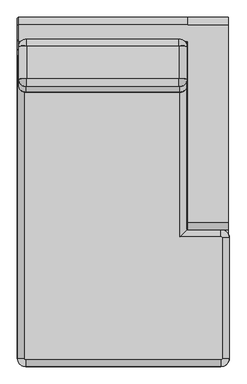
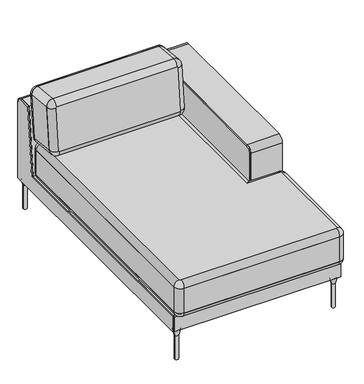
"""IFC4 building model written with IfcOpenShell, lengths in millimetres: furniture geometry, Sofa_Bensen_Neo_NEO15RIT : Sofa_Bensen_Neo_NEO15RIT."""

from ifc_helpers import new_model, si_unit, point, frame, frame_2d, origin, place, context, project, spatial, polyline, circle_curve, ellipse_curve, trimmed, segment, composite_curve, outline, extrude, source, transform, mapped, element, save
from ifc_brep_helpers import plane_surface, cylinder_surface, revolved_surface, advanced_brep


def furniture_083d2603(model_context):
    return source(origin(), model_context, "Body", "SolidModel", [
        advanced_brep(
        [(240.0000001, -479.9987249, 259.4004127), (240.0000001, 275.0012751, 259.4004127), (270.0000001, 275.0012751, 289.4004127), (270.0000001, -449.9987249, 289.4004127), (420.0000001, -994.9987249, 259.4004127), (420.0000001, -484.9987249, 259.4004127), (450.0000001, -484.9987249, 289.4004127), (450.0000001, -994.9987249, 289.4004127), (415.0000001, -479.9987249, 259.4004127), (415.0000001, -449.9987249, 289.4004127), (-419.9999999, 275.0012751, 259.4004127), (-419.9999999, -994.9987249, 259.4004127), (-449.9999999, -994.9987249, 289.4004127), (-449.9999999, 275.0012751, 289.4004127), (235.0000001, 280.0012751, 259.4004127), (235.0000001, 310.0012751, 289.4004127), (-414.9999999, 280.0012751, 259.4004127), (-414.9999999, 310.0012751, 289.4004127), (-414.9999999, -999.9987249, 259.4004127), (-414.9999999, -1029.9987249, 289.4004127), (415.0000001, -999.9987249, 259.4004127), (415.0000001, -1029.9987249, 289.4004127)],
        [
            (0, 1),
            (1, 2, circle_curve(frame((240.0000001, 275.0012751, 289.4004127), z_axis=(0.0, -1.0, 0.0), x_axis=(1.0, 0.0, 0.0)), 30.0)),
            (2, 3),
            (3, 0, ellipse_curve(frame((240.0000001, -479.9987249, 289.4004127), z_axis=(-0.7071067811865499, 0.707106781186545, 0.0), x_axis=(-0.7071067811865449, -0.70710678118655, 0.0)), 42.4264069, 30.0)),
            (4, 5),
            (5, 6, circle_curve(frame((420.0000001, -484.9987249, 289.4004127), z_axis=(0.0, -1.0, 0.0), x_axis=(1.0, 0.0, 0.0)), 30.0)),
            (6, 7),
            (7, 4, circle_curve(frame((420.0000001, -994.9987249, 289.4004127), z_axis=(0.0, 1.0, 0.0), x_axis=(1.0, 0.0, 0.0)), 30.0)),
            (5, 8, circle_curve(frame((415.0000001, -484.9987249, 259.4004127), z_axis=(0.0, 0.0, 1.0), x_axis=(1.0, 0.0, 0.0)), 5.0)),
            (8, 9, circle_curve(frame((415.0000001, -479.9987249, 289.4004127), z_axis=(1.0, 0.0, 0.0), x_axis=(0.0, 1.0, 0.0)), 30.0)),
            (9, 6, circle_curve(frame((415.0000001, -484.9987249, 289.4004127), z_axis=(0.0, 0.0, -1.0), x_axis=(1.0, 0.0, 0.0)), 35.0)),
            (3, 9),
            (8, 0),
            (10, 11),
            (11, 12, circle_curve(frame((-419.9999999, -994.9987249, 289.4004127), z_axis=(0.0, 1.0, 0.0), x_axis=(-1.0, 0.0, 0.0)), 30.0)),
            (12, 13),
            (13, 10, circle_curve(frame((-419.9999999, 275.0012751, 289.4004127), z_axis=(0.0, -1.0, 0.0), x_axis=(-1.0, 0.0, 0.0)), 30.0)),
            (1, 14, circle_curve(frame((235.0000001, 275.0012751, 259.4004127), z_axis=(0.0, 0.0, 1.0), x_axis=(1.0, 0.0, 0.0)), 5.0)),
            (14, 15, circle_curve(frame((235.0000001, 280.0012751, 289.4004127), z_axis=(1.0, 0.0, 0.0), x_axis=(0.0, 1.0, 0.0)), 30.0)),
            (15, 2, circle_curve(frame((235.0000001, 275.0012751, 289.4004127), z_axis=(0.0, 0.0, -1.0), x_axis=(1.0, 0.0, 0.0)), 35.0)),
            (14, 16),
            (16, 17, circle_curve(frame((-414.9999999, 280.0012751, 289.4004127), z_axis=(1.0, 0.0, 0.0), x_axis=(0.0, 1.0, 0.0)), 30.0)),
            (17, 15),
            (13, 17, circle_curve(frame((-414.9999999, 275.0012751, 289.4004127), z_axis=(0.0, 0.0, -1.0), x_axis=(0.0, 1.0, 0.0)), 35.0)),
            (16, 10, circle_curve(frame((-414.9999999, 275.0012751, 259.4004127), z_axis=(0.0, 0.0, 1.0), x_axis=(0.0, 1.0, 0.0)), 5.0)),
            (11, 18, circle_curve(frame((-414.9999999, -994.9987249, 259.4004127), z_axis=(0.0, 0.0, 1.0), x_axis=(-1.0, 0.0, 0.0)), 5.0)),
            (18, 19, circle_curve(frame((-414.9999999, -999.9987249, 289.4004127), z_axis=(-1.0, 0.0, 0.0), x_axis=(0.0, -1.0, 0.0)), 30.0)),
            (19, 12, circle_curve(frame((-414.9999999, -994.9987249, 289.4004127), z_axis=(0.0, 0.0, -1.0), x_axis=(-1.0, 0.0, 0.0)), 35.0)),
            (18, 20),
            (20, 21, circle_curve(frame((415.0000001, -999.9987249, 289.4004127), z_axis=(-1.0, 0.0, 0.0), x_axis=(0.0, -1.0, 0.0)), 30.0)),
            (21, 19),
            (7, 21, circle_curve(frame((415.0000001, -994.9987249, 289.4004127), z_axis=(0.0, 0.0, -1.0), x_axis=(0.0, -1.0, 0.0)), 35.0)),
            (20, 4, circle_curve(frame((415.0000001, -994.9987249, 259.4004127), z_axis=(0.0, 0.0, 1.0), x_axis=(0.0, -1.0, 0.0)), 5.0)),
        ],
        [
            cylinder_surface(frame((240.0000001, -449.9987249, 289.4004127), z_axis=(0.0, -1.0, 0.0), x_axis=(1.0, 0.0, 0.0)), 30.0),
            cylinder_surface(frame((420.0000001, -994.9987249, 289.4004127), z_axis=(0.0, -1.0, 0.0), x_axis=(1.0, 0.0, 0.0)), 30.0),
            revolved_surface(trimmed(ellipse_curve(frame((420.0000001, -484.9987249, 289.4004127), z_axis=(0.0, 1.0, 0.0), x_axis=(1.0, 0.0, 0.0)), 30.0, 30.0), [point((450.0000001, -484.9987249, 289.4004127))], [point((420.0000001, -484.9987249, 259.4004127))], True, "CARTESIAN"), (415.0000001, -484.9987249, 459.4004127), (0.0, 0.0, -1.0)),
            cylinder_surface(frame((415.0000001, -479.9987249, 289.4004127), z_axis=(1.0, 0.0, 0.0), x_axis=(0.0, 1.0, 0.0)), 30.0),
            cylinder_surface(frame((-419.9999999, 275.0012751, 289.4004127), z_axis=(0.0, 1.0, 0.0), x_axis=(-1.0, 0.0, 0.0)), 30.0),
            revolved_surface(trimmed(ellipse_curve(frame((240.0000001, 275.0012751, 289.4004127), z_axis=(0.0, 1.0, 0.0), x_axis=(1.0, 0.0, 0.0)), 30.0, 30.0), [point((270.0000001, 275.0012751, 289.4004127))], [point((240.0000001, 275.0012751, 259.4004127))], True, "CARTESIAN"), (235.0000001, 275.0012751, 459.4004127), (0.0, 0.0, -1.0)),
            cylinder_surface(frame((235.0000001, 280.0012751, 289.4004127), z_axis=(1.0, 0.0, 0.0), x_axis=(0.0, 1.0, 0.0)), 30.0),
            revolved_surface(trimmed(ellipse_curve(frame((-414.9999999, 280.0012751, 289.4004127), z_axis=(-1.0, 0.0, 0.0), x_axis=(0.0, 1.0, 0.0)), 30.0, 30.0), [point((-414.9999999, 310.0012751, 289.4004127))], [point((-414.9999999, 280.0012751, 259.4004127))], True, "CARTESIAN"), (-414.9999999, 275.0012751, 459.4004127), (0.0, 0.0, -1.0)),
            revolved_surface(trimmed(ellipse_curve(frame((-419.9999999, -994.9987249, 289.4004127), z_axis=(0.0, -1.0, 0.0), x_axis=(-1.0, 0.0, 0.0)), 30.0, 30.0), [point((-449.9999999, -994.9987249, 289.4004127))], [point((-419.9999999, -994.9987249, 259.4004127))], True, "CARTESIAN"), (-414.9999999, -994.9987249, 459.4004127), (0.0, 0.0, -1.0)),
            cylinder_surface(frame((-414.9999999, -999.9987249, 289.4004127), z_axis=(-1.0, 0.0, 0.0), x_axis=(0.0, -1.0, 0.0)), 30.0),
            revolved_surface(trimmed(ellipse_curve(frame((415.0000001, -999.9987249, 289.4004127), z_axis=(1.0, 0.0, 0.0), x_axis=(0.0, -1.0, 0.0)), 30.0, 30.0), [point((415.0000001, -1029.9987249, 289.4004127))], [point((415.0000001, -999.9987249, 259.4004127))], True, "CARTESIAN"), (415.0000001, -994.9987249, 459.4004127), (0.0, 0.0, -1.0)),
            plane_surface(frame((415.0000001, -994.9987249, 289.4004127), z_axis=(0.0, 0.0, 1.0), x_axis=(0.0, -1.0, 0.0))),
            plane_surface(frame((235.0000001, 270.0012751, 259.4004127), z_axis=(0.0, 0.0, -1.0), x_axis=(1.0, 0.0, 0.0))),
        ],
        [
            (0, [[1, 2, 3, 4]]),
            (1, [[5, 6, 7, 8]]),
            (2, [[9, 10, 11, -6]]),
            (3, [[12, -10, 13, -4]]),
            (4, [[14, 15, 16, 17]]),
            (5, [[18, 19, 20, -2]]),
            (6, [[21, 22, 23, -19]]),
            (7, [[24, -22, 25, -17]]),
            (8, [[26, 27, 28, -15]]),
            (9, [[29, 30, 31, -27]]),
            (10, [[32, -30, 33, -8]]),
            (11, [[-20, -23, -24, -16, -28, -31, -32, -7, -11, -12, -3]]),
            (12, [[-13, -9, -5, -33, -29, -26, -14, -25, -21, -18, -1]]),
        ],
    ),
        advanced_brep(
        [(270.0000001, -449.9987249, 429.4004127), (270.0000001, 275.0012751, 429.4004127), (240.0000001, 275.0012751, 459.4004127), (240.0000001, -479.9987249, 459.4004127), (235.0000001, 280.0012751, 459.4004127), (-414.9999999, 280.0012751, 459.4004127), (-419.9999999, 275.0012751, 459.4004127), (-419.9999999, -994.9987249, 459.4004127), (-414.9999999, -999.9987249, 459.4004127), (415.0000001, -999.9987249, 459.4004127), (420.0000001, -994.9987249, 459.4004127), (420.0000001, -484.9987249, 459.4004127), (415.0000001, -479.9987249, 459.4004127), (450.0000001, -994.9987249, 429.4004127), (450.0000001, -484.9987249, 429.4004127), (415.0000001, -449.9987249, 429.4004127), (-449.9999999, 275.0012751, 429.4004127), (-449.9999999, -994.9987249, 429.4004127), (235.0000001, 310.0012751, 429.4004127), (-414.9999999, 310.0012751, 429.4004127), (-414.9999999, -1029.9987249, 429.4004127), (415.0000001, -1029.9987249, 429.4004127)],
        [
            (0, 1),
            (1, 2, circle_curve(frame((240.0000001, 275.0012751, 429.4004127), z_axis=(0.0, -1.0, 0.0), x_axis=(1.0, 0.0, 0.0)), 30.0)),
            (2, 3),
            (3, 0, ellipse_curve(frame((240.0000001, -479.9987249, 429.4004127), z_axis=(-0.7071067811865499, 0.707106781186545, 0.0), x_axis=(-0.7071067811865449, -0.70710678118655, 0.0)), 42.4264069, 30.0)),
            (2, 4, circle_curve(frame((235.0000001, 275.0012751, 459.4004127), z_axis=(0.0, 0.0, 1.0), x_axis=(1.0, 0.0, 0.0)), 5.0)),
            (4, 5),
            (5, 6, circle_curve(frame((-414.9999999, 275.0012751, 459.4004127), z_axis=(0.0, 0.0, 1.0), x_axis=(0.0, 1.0, 0.0)), 5.0)),
            (6, 7),
            (7, 8, circle_curve(frame((-414.9999999, -994.9987249, 459.4004127), z_axis=(0.0, 0.0, 1.0), x_axis=(-1.0, 0.0, 0.0)), 5.0)),
            (8, 9),
            (9, 10, circle_curve(frame((415.0000001, -994.9987249, 459.4004127), z_axis=(0.0, 0.0, 1.0), x_axis=(0.0, -1.0, 0.0)), 5.0)),
            (10, 11),
            (11, 12, circle_curve(frame((415.0000001, -484.9987249, 459.4004127), z_axis=(0.0, 0.0, 1.0), x_axis=(1.0, 0.0, 0.0)), 5.0)),
            (12, 3),
            (13, 14),
            (14, 11, circle_curve(frame((420.0000001, -484.9987249, 429.4004127), z_axis=(0.0, -1.0, 0.0), x_axis=(1.0, 0.0, 0.0)), 30.0)),
            (10, 13, circle_curve(frame((420.0000001, -994.9987249, 429.4004127), z_axis=(0.0, 1.0, 0.0), x_axis=(1.0, 0.0, 0.0)), 30.0)),
            (14, 15, circle_curve(frame((415.0000001, -484.9987249, 429.4004127), z_axis=(0.0, 0.0, 1.0), x_axis=(1.0, 0.0, 0.0)), 35.0)),
            (15, 12, circle_curve(frame((415.0000001, -479.9987249, 429.4004127), z_axis=(1.0, 0.0, 0.0), x_axis=(0.0, 1.0, 0.0)), 30.0)),
            (15, 0),
            (16, 17),
            (17, 7, circle_curve(frame((-419.9999999, -994.9987249, 429.4004127), z_axis=(0.0, 1.0, 0.0), x_axis=(-1.0, 0.0, 0.0)), 30.0)),
            (6, 16, circle_curve(frame((-419.9999999, 275.0012751, 429.4004127), z_axis=(0.0, -1.0, 0.0), x_axis=(-1.0, 0.0, 0.0)), 30.0)),
            (1, 18, circle_curve(frame((235.0000001, 275.0012751, 429.4004127), z_axis=(0.0, 0.0, 1.0), x_axis=(1.0, 0.0, 0.0)), 35.0)),
            (18, 4, circle_curve(frame((235.0000001, 280.0012751, 429.4004127), z_axis=(1.0, 0.0, 0.0), x_axis=(0.0, 1.0, 0.0)), 30.0)),
            (18, 19),
            (19, 5, circle_curve(frame((-414.9999999, 280.0012751, 429.4004127), z_axis=(1.0, 0.0, 0.0), x_axis=(0.0, 1.0, 0.0)), 30.0)),
            (19, 16, circle_curve(frame((-414.9999999, 275.0012751, 429.4004127), z_axis=(0.0, 0.0, 1.0), x_axis=(0.0, 1.0, 0.0)), 35.0)),
            (17, 20, circle_curve(frame((-414.9999999, -994.9987249, 429.4004127), z_axis=(0.0, 0.0, 1.0), x_axis=(-1.0, 0.0, 0.0)), 35.0)),
            (20, 8, circle_curve(frame((-414.9999999, -999.9987249, 429.4004127), z_axis=(-1.0, 0.0, 0.0), x_axis=(0.0, -1.0, 0.0)), 30.0)),
            (20, 21),
            (21, 9, circle_curve(frame((415.0000001, -999.9987249, 429.4004127), z_axis=(-1.0, 0.0, 0.0), x_axis=(0.0, -1.0, 0.0)), 30.0)),
            (21, 13, circle_curve(frame((415.0000001, -994.9987249, 429.4004127), z_axis=(0.0, 0.0, 1.0), x_axis=(0.0, -1.0, 0.0)), 35.0)),
        ],
        [
            cylinder_surface(frame((240.0000001, -449.9987249, 429.4004127), z_axis=(0.0, -1.0, 0.0), x_axis=(1.0, 0.0, 0.0)), 30.0),
            plane_surface(frame((230.0000001, 275.0012751, 459.4004127), z_axis=(0.0, 0.0, 1.0), x_axis=(0.0, 1.0, 0.0))),
            cylinder_surface(frame((420.0000001, -994.9987249, 429.4004127), z_axis=(0.0, -1.0, 0.0), x_axis=(1.0, 0.0, 0.0)), 30.0),
            revolved_surface(trimmed(ellipse_curve(frame((420.0000001, -484.9987249, 429.4004127), z_axis=(0.0, 1.0, 0.0), x_axis=(1.0, 0.0, 0.0)), 30.0, 30.0), [point((420.0000001, -484.9987249, 459.4004127))], [point((450.0000001, -484.9987249, 429.4004127))], True, "CARTESIAN"), (415.0000001, -484.9987249, 259.4004127), (0.0, 0.0, -1.0)),
            cylinder_surface(frame((415.0000001, -479.9987249, 429.4004127), z_axis=(1.0, 0.0, 0.0), x_axis=(0.0, 1.0, 0.0)), 30.0),
            cylinder_surface(frame((-419.9999999, 275.0012751, 429.4004127), z_axis=(0.0, 1.0, 0.0), x_axis=(-1.0, 0.0, 0.0)), 30.0),
            revolved_surface(trimmed(ellipse_curve(frame((240.0000001, 275.0012751, 429.4004127), z_axis=(0.0, 1.0, 0.0), x_axis=(1.0, 0.0, 0.0)), 30.0, 30.0), [point((240.0000001, 275.0012751, 459.4004127))], [point((270.0000001, 275.0012751, 429.4004127))], True, "CARTESIAN"), (235.0000001, 275.0012751, 259.4004127), (0.0, 0.0, -1.0)),
            cylinder_surface(frame((235.0000001, 280.0012751, 429.4004127), z_axis=(1.0, 0.0, 0.0), x_axis=(0.0, 1.0, 0.0)), 30.0),
            revolved_surface(trimmed(ellipse_curve(frame((-414.9999999, 280.0012751, 429.4004127), z_axis=(-1.0, 0.0, 0.0), x_axis=(0.0, 1.0, 0.0)), 30.0, 30.0), [point((-414.9999999, 280.0012751, 459.4004127))], [point((-414.9999999, 310.0012751, 429.4004127))], True, "CARTESIAN"), (-414.9999999, 275.0012751, 259.4004127), (0.0, 0.0, -1.0)),
            revolved_surface(trimmed(ellipse_curve(frame((-419.9999999, -994.9987249, 429.4004127), z_axis=(0.0, -1.0, 0.0), x_axis=(-1.0, 0.0, 0.0)), 30.0, 30.0), [point((-419.9999999, -994.9987249, 459.4004127))], [point((-449.9999999, -994.9987249, 429.4004127))], True, "CARTESIAN"), (-414.9999999, -994.9987249, 259.4004127), (0.0, 0.0, -1.0)),
            cylinder_surface(frame((-414.9999999, -999.9987249, 429.4004127), z_axis=(-1.0, 0.0, 0.0), x_axis=(0.0, -1.0, 0.0)), 30.0),
            revolved_surface(trimmed(ellipse_curve(frame((415.0000001, -999.9987249, 429.4004127), z_axis=(1.0, 0.0, 0.0), x_axis=(0.0, -1.0, 0.0)), 30.0, 30.0), [point((415.0000001, -999.9987249, 459.4004127))], [point((415.0000001, -1029.9987249, 429.4004127))], True, "CARTESIAN"), (415.0000001, -994.9987249, 259.4004127), (0.0, 0.0, -1.0)),
            plane_surface(frame((415.0000001, -994.9987249, 429.4004127), z_axis=(0.0, 0.0, -1.0), x_axis=(0.0, -1.0, 0.0))),
        ],
        [
            (0, [[1, 2, 3, 4]]),
            (1, [[5, 6, 7, 8, 9, 10, 11, 12, 13, 14, -3]]),
            (2, [[15, 16, -12, 17]]),
            (3, [[18, 19, -13, -16]]),
            (4, [[-14, -19, 20, -4]]),
            (5, [[21, 22, -8, 23]]),
            (6, [[24, 25, -5, -2]]),
            (7, [[26, 27, -6, -25]]),
            (8, [[-7, -27, 28, -23]]),
            (9, [[29, 30, -9, -22]]),
            (10, [[31, 32, -10, -30]]),
            (11, [[-11, -32, 33, -17]]),
            (12, [[-20, -18, -15, -33, -31, -29, -21, -28, -26, -24, -1]]),
        ],
    ),
        extrude(outline(composite_curve([segment(trimmed(circle_curve(frame_2d((235.0000001, 275.0012751)), 35.0), [point((235.0000001, 310.0012751))], [point((270.0000001, 275.0012751))], False, "CARTESIAN"), True, "CONTINUOUS"), segment(polyline([(270.0000001, 275.0012751), (270.0000001, -449.9987249), (415.0000001, -449.9987249)]), True, "CONTINUOUS"), segment(trimmed(circle_curve(frame_2d((415.0000001, -484.9987249)), 35.0), [point((415.0000001, -449.9987249))], [point((450.0000001, -484.9987249))], False, "CARTESIAN"), True, "CONTINUOUS"), segment(polyline([(450.0000001, -484.9987249), (450.0000001, -994.9987249)]), True, "CONTINUOUS"), segment(trimmed(circle_curve(frame_2d((415.0000001, -994.9987249)), 35.0), [point((450.0000001, -994.9987249))], [point((415.0000001, -1029.9987249))], False, "CARTESIAN"), True, "CONTINUOUS"), segment(polyline([(415.0000001, -1029.9987249), (-414.9999999, -1029.9987249)]), True, "CONTINUOUS"), segment(trimmed(circle_curve(frame_2d((-414.9999999, -994.9987249)), 35.0), [point((-414.9999999, -1029.9987249))], [point((-449.9999999, -994.9987249))], False, "CARTESIAN"), True, "CONTINUOUS"), segment(polyline([(-449.9999999, -994.9987249), (-449.9999999, 275.0012751)]), True, "CONTINUOUS"), segment(trimmed(circle_curve(frame_2d((-414.9999999, 275.0012751)), 35.0), [point((-449.9999999, 275.0012751))], [point((-414.9999999, 310.0012751))], False, "CARTESIAN"), True, "CONTINUOUS"), segment(polyline([(-414.9999999, 310.0012751), (235.0000001, 310.0012751)]), True, "CONTINUOUS")], self_intersect=False)), frame((0.0, 0.0, 289.4004127), z_axis=(0.0, 0.0, 1.0), x_axis=(1.0, 0.0, 0.0)), (0.0, 0.0, 1.0), 140.0),
        advanced_brep(
        [(-421.0275996, -970.0263245, 0.0), (-430.8719303, -970.0263245, 0.0), (-411.1832689, -970.0263245, 0.0), (-401.0551992, -970.0263245, 170.0), (-441.0, -970.0263245, 170.0), (-421.0275996, -970.0263245, 170.0), (-411.1832689, -970.0263245, 133.7982678), (-430.8719303, -970.0263245, 133.7982678)],
        [
            (0, 1),
            (1, 2, circle_curve(frame((-421.0275996, -970.0263245, 0.0), z_axis=(0.0, 0.0, -1.0), x_axis=(-1.0, 0.0, 0.0)), 9.8443307)),
            (2, 0),
            (2, 1, circle_curve(frame((-421.0275996, -970.0263245, 0.0), z_axis=(0.0, 0.0, -1.0), x_axis=(-1.0, 0.0, 0.0)), 9.8443307)),
            (3, 4, circle_curve(frame((-421.0275996, -970.0263245, 170.0), z_axis=(0.0, 0.0, 1.0), x_axis=(-1.0, 0.0, 0.0)), 19.9724004)),
            (4, 5),
            (5, 3),
            (4, 3, circle_curve(frame((-421.0275996, -970.0263245, 170.0), z_axis=(0.0, 0.0, 1.0), x_axis=(-1.0, 0.0, 0.0)), 19.9724004)),
            (6, 7, circle_curve(frame((-421.0275996, -970.0263245, 133.7982678), z_axis=(0.0, 0.0, 1.0), x_axis=(-1.0, 0.0, 0.0)), 9.8443307)),
            (7, 4),
            (3, 6),
            (7, 6, circle_curve(frame((-421.0275996, -970.0263245, 133.7982678), z_axis=(0.0, 0.0, 1.0), x_axis=(-1.0, 0.0, 0.0)), 9.8443307)),
            (1, 7),
            (6, 2),
        ],
        [
            plane_surface(frame((-421.0275996, -970.0263245, 0.0), z_axis=(0.0, 0.0, -1.0), x_axis=(-1.0, 0.0, 0.0))),
            plane_surface(frame((-421.0275996, -970.0263245, 170.0), z_axis=(0.0, 0.0, 1.0), x_axis=(-1.0, 0.0, 0.0))),
            revolved_surface(polyline([(-441.0, -970.0263245, 170.0), (-430.8719303, -970.0263245, 133.7982678)]), (-421.0275996, -970.0263245, 210.0), (0.0, 0.0, -1.0)),
            cylinder_surface(frame((-421.0275996, -970.0263245, 210.0), z_axis=(0.0, 0.0, -1.0), x_axis=(-1.0, 0.0, 0.0)), 9.8443307),
        ],
        [
            (0, [[1, 2, 3]]),
            (0, [[-3, 4, -1]]),
            (1, [[5, 6, 7]]),
            (1, [[8, -7, -6]]),
            (2, [[9, 10, -5, 11]]),
            (2, [[12, -11, -8, -10]]),
            (3, [[-2, 13, -9, 14]]),
            (3, [[-4, -14, -12, -13]]),
        ],
    ),
        advanced_brep(
        [(416.0275996, -970.0263245, 0.0), (406.1832689, -970.0263245, 0.0), (425.8719303, -970.0263245, 0.0), (396.0551992, -970.0263245, 170.0), (416.0275996, -970.0263245, 170.0), (436.0, -970.0263245, 170.0), (406.1832689, -970.0263245, 133.7982678), (425.8719303, -970.0263245, 133.7982678)],
        [
            (0, 1),
            (1, 2, circle_curve(frame((416.0275996, -970.0263245, 0.0), z_axis=(0.0, 0.0, -1.0), x_axis=(1.0, 0.0, 0.0)), 9.8443307)),
            (2, 0),
            (2, 1, circle_curve(frame((416.0275996, -970.0263245, 0.0), z_axis=(0.0, 0.0, -1.0), x_axis=(1.0, 0.0, 0.0)), 9.8443307)),
            (3, 4),
            (4, 5),
            (5, 3, circle_curve(frame((416.0275996, -970.0263245, 170.0), z_axis=(0.0, 0.0, 1.0), x_axis=(1.0, 0.0, 0.0)), 19.9724004)),
            (3, 5, circle_curve(frame((416.0275996, -970.0263245, 170.0), z_axis=(0.0, 0.0, 1.0), x_axis=(1.0, 0.0, 0.0)), 19.9724004)),
            (6, 3),
            (5, 7),
            (7, 6, circle_curve(frame((416.0275996, -970.0263245, 133.7982678), z_axis=(0.0, 0.0, 1.0), x_axis=(1.0, 0.0, 0.0)), 9.8443307)),
            (6, 7, circle_curve(frame((416.0275996, -970.0263245, 133.7982678), z_axis=(0.0, 0.0, 1.0), x_axis=(1.0, 0.0, 0.0)), 9.8443307)),
            (1, 6),
            (7, 2),
        ],
        [
            plane_surface(frame((416.0275996, -970.0263245, 0.0), z_axis=(0.0, 0.0, -1.0), x_axis=(1.0, 0.0, 0.0))),
            plane_surface(frame((416.0275996, -970.0263245, 170.0), z_axis=(0.0, 0.0, 1.0), x_axis=(1.0, 0.0, 0.0))),
            revolved_surface(polyline([(436.0, -970.0263245, 170.0), (425.8719303, -970.0263245, 133.7982678)]), (416.0275996, -970.0263245, 210.0), (0.0, 0.0, -1.0)),
            cylinder_surface(frame((416.0275996, -970.0263245, 210.0), z_axis=(0.0, 0.0, -1.0), x_axis=(1.0, 0.0, 0.0)), 9.8443307),
        ],
        [
            (0, [[1, 2, 3]]),
            (0, [[-3, 4, -1]]),
            (1, [[5, 6, 7]]),
            (1, [[-6, -5, 8]]),
            (2, [[9, -7, 10, 11]]),
            (2, [[-10, -8, -9, 12]]),
            (3, [[13, -11, 14, -2]]),
            (3, [[-14, -12, -13, -4]]),
        ],
    ),
        advanced_brep(
        [(-421.0275996, 430.0263245, 0.0), (-411.1832689, 430.0263245, 0.0), (-430.8719303, 430.0263245, 0.0), (-401.0551992, 430.0263245, 170.0), (-421.0275996, 430.0263245, 170.0), (-441.0, 430.0263245, 170.0), (-411.1832689, 430.0263245, 133.7982678), (-430.8719303, 430.0263245, 133.7982678)],
        [
            (0, 1),
            (1, 2, circle_curve(frame((-421.0275996, 430.0263245, 0.0), z_axis=(0.0, 0.0, -1.0), x_axis=(-1.0, 0.0, 0.0)), 9.8443307)),
            (2, 0),
            (2, 1, circle_curve(frame((-421.0275996, 430.0263245, 0.0), z_axis=(0.0, 0.0, -1.0), x_axis=(-1.0, 0.0, 0.0)), 9.8443307)),
            (3, 4),
            (4, 5),
            (5, 3, circle_curve(frame((-421.0275996, 430.0263245, 170.0), z_axis=(0.0, 0.0, 1.0), x_axis=(-1.0, 0.0, 0.0)), 19.9724004)),
            (3, 5, circle_curve(frame((-421.0275996, 430.0263245, 170.0), z_axis=(0.0, 0.0, 1.0), x_axis=(-1.0, 0.0, 0.0)), 19.9724004)),
            (6, 3),
            (5, 7),
            (7, 6, circle_curve(frame((-421.0275996, 430.0263245, 133.7982678), z_axis=(0.0, 0.0, 1.0), x_axis=(-1.0, 0.0, 0.0)), 9.8443307)),
            (6, 7, circle_curve(frame((-421.0275996, 430.0263245, 133.7982678), z_axis=(0.0, 0.0, 1.0), x_axis=(-1.0, 0.0, 0.0)), 9.8443307)),
            (1, 6),
            (7, 2),
        ],
        [
            plane_surface(frame((-421.0275996, 430.0263245, 0.0), z_axis=(0.0, 0.0, -1.0), x_axis=(-1.0, 0.0, 0.0))),
            plane_surface(frame((-421.0275996, 430.0263245, 170.0), z_axis=(0.0, 0.0, 1.0), x_axis=(-1.0, 0.0, 0.0))),
            revolved_surface(polyline([(-441.0, 430.0263245, 170.0), (-430.8719303, 430.0263245, 133.7982678)]), (-421.0275996, 430.0263245, 210.0), (0.0, 0.0, -1.0)),
            cylinder_surface(frame((-421.0275996, 430.0263245, 210.0), z_axis=(0.0, 0.0, -1.0), x_axis=(-1.0, 0.0, 0.0)), 9.8443307),
        ],
        [
            (0, [[1, 2, 3]]),
            (0, [[-3, 4, -1]]),
            (1, [[5, 6, 7]]),
            (1, [[-6, -5, 8]]),
            (2, [[9, -7, 10, 11]]),
            (2, [[-10, -8, -9, 12]]),
            (3, [[13, -11, 14, -2]]),
            (3, [[-14, -12, -13, -4]]),
        ],
    ),
        advanced_brep(
        [(416.0275996, 430.0263245, 0.0), (425.8719303, 430.0263245, 0.0), (406.1832689, 430.0263245, 0.0), (396.0551992, 430.0263245, 170.0), (436.0, 430.0263245, 170.0), (416.0275996, 430.0263245, 170.0), (406.1832689, 430.0263245, 133.7982678), (425.8719303, 430.0263245, 133.7982678)],
        [
            (0, 1),
            (1, 2, circle_curve(frame((416.0275996, 430.0263245, 0.0), z_axis=(0.0, 0.0, -1.0), x_axis=(1.0, 0.0, 0.0)), 9.8443307)),
            (2, 0),
            (2, 1, circle_curve(frame((416.0275996, 430.0263245, 0.0), z_axis=(0.0, 0.0, -1.0), x_axis=(1.0, 0.0, 0.0)), 9.8443307)),
            (3, 4, circle_curve(frame((416.0275996, 430.0263245, 170.0), z_axis=(0.0, 0.0, 1.0), x_axis=(1.0, 0.0, 0.0)), 19.9724004)),
            (4, 5),
            (5, 3),
            (4, 3, circle_curve(frame((416.0275996, 430.0263245, 170.0), z_axis=(0.0, 0.0, 1.0), x_axis=(1.0, 0.0, 0.0)), 19.9724004)),
            (6, 7, circle_curve(frame((416.0275996, 430.0263245, 133.7982678), z_axis=(0.0, 0.0, 1.0), x_axis=(1.0, 0.0, 0.0)), 9.8443307)),
            (7, 4),
            (3, 6),
            (7, 6, circle_curve(frame((416.0275996, 430.0263245, 133.7982678), z_axis=(0.0, 0.0, 1.0), x_axis=(1.0, 0.0, 0.0)), 9.8443307)),
            (1, 7),
            (6, 2),
        ],
        [
            plane_surface(frame((416.0275996, 430.0263245, 0.0), z_axis=(0.0, 0.0, -1.0), x_axis=(1.0, 0.0, 0.0))),
            plane_surface(frame((416.0275996, 430.0263245, 170.0), z_axis=(0.0, 0.0, 1.0), x_axis=(1.0, 0.0, 0.0))),
            revolved_surface(polyline([(436.0, 430.0263245, 170.0), (425.8719303, 430.0263245, 133.7982678)]), (416.0275996, 430.0263245, 210.0), (0.0, 0.0, -1.0)),
            cylinder_surface(frame((416.0275996, 430.0263245, 210.0), z_axis=(0.0, 0.0, -1.0), x_axis=(1.0, 0.0, 0.0)), 9.8443307),
        ],
        [
            (0, [[1, 2, 3]]),
            (0, [[-3, 4, -1]]),
            (1, [[5, 6, 7]]),
            (1, [[8, -7, -6]]),
            (2, [[9, 10, -5, 11]]),
            (2, [[12, -11, -8, -10]]),
            (3, [[-2, 13, -9, 14]]),
            (3, [[-4, -14, -12, -13]]),
        ],
    ),
        advanced_brep(
        [(235.0000001, 330.2036921, 743.2087665), (-409.9999999, 330.2036921, 743.2087665), (-444.9999999, 326.5451959, 708.4005002), (-444.9999999, 302.5036494, 479.6604642), (-409.9999999, 298.8451531, 444.8521979), (235.0000001, 298.8451531, 444.8521979), (270.0000001, 302.5036494, 479.6604642), (270.0000001, 326.5451959, 708.4005002), (240.0000001, 356.3808528, 705.2646463), (240.0000001, 332.3393062, 476.5246103), (235.0000001, 331.8166639, 471.5520008), (-409.9999999, 331.8166639, 471.5520008), (-414.9999999, 332.3393062, 476.5246103), (-414.9999999, 356.3808528, 705.2646463), (-409.9999999, 356.9034951, 710.2372557), (235.0000001, 356.9034951, 710.2372557)],
        [
            (0, 1),
            (1, 2, circle_curve(frame((-409.9999999, 326.5451959, 708.4005002), z_axis=(0.0, -0.9945218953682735, 0.10452846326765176), x_axis=(0.0, 0.10452846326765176, 0.9945218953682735)), 35.0)),
            (2, 3),
            (3, 4, circle_curve(frame((-409.9999999, 302.5036494, 479.6604642), z_axis=(0.0, -0.9945218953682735, 0.10452846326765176), x_axis=(-1.0, 0.0, 0.0)), 35.0)),
            (4, 5),
            (5, 6, circle_curve(frame((235.0000001, 302.5036494, 479.6604642), z_axis=(0.0, -0.9945218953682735, 0.10452846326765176), x_axis=(0.0, -0.10452846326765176, -0.9945218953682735)), 35.0)),
            (6, 7),
            (7, 0, circle_curve(frame((235.0000001, 326.5451959, 708.4005002), z_axis=(0.0, -0.9945218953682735, 0.10452846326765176), x_axis=(1.0, 0.0, 0.0)), 35.0)),
            (8, 9),
            (9, 10, circle_curve(frame((235.0000001, 332.3393062, 476.5246103), z_axis=(0.0, 0.9945218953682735, -0.10452846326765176), x_axis=(0.0, -0.10452846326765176, -0.9945218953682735)), 5.0)),
            (10, 11),
            (11, 12, circle_curve(frame((-409.9999999, 332.3393062, 476.5246103), z_axis=(0.0, 0.9945218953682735, -0.10452846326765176), x_axis=(-1.0, 0.0, 0.0)), 5.0)),
            (12, 13),
            (13, 14, circle_curve(frame((-409.9999999, 356.3808528, 705.2646463), z_axis=(0.0, 0.9945218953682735, -0.10452846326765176), x_axis=(0.0, 0.10452846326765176, 0.9945218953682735)), 5.0)),
            (14, 15),
            (15, 8, circle_curve(frame((235.0000001, 356.3808528, 705.2646463), z_axis=(0.0, 0.9945218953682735, -0.10452846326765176), x_axis=(1.0, 0.0, 0.0)), 5.0)),
            (15, 0, circle_curve(frame((235.0000001, 327.0678382, 713.3731096), z_axis=(1.0, 0.0, 0.0), x_axis=(0.0, 0.10452846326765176, 0.9945218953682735)), 30.0)),
            (7, 8, circle_curve(frame((240.0000001, 326.5451959, 708.4005002), z_axis=(0.0, 0.10452846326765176, 0.9945218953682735), x_axis=(1.0, 0.0, 0.0)), 30.0)),
            (14, 1, circle_curve(frame((-409.9999999, 327.0678382, 713.3731096), z_axis=(1.0, 0.0, 0.0), x_axis=(0.0, 0.10452846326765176, 0.9945218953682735)), 30.0)),
            (13, 2, circle_curve(frame((-414.9999999, 326.5451959, 708.4005002), z_axis=(0.0, 0.10452846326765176, 0.9945218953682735), x_axis=(-1.0, 0.0, 0.0)), 30.0)),
            (12, 3, circle_curve(frame((-414.9999999, 302.5036494, 479.6604642), z_axis=(0.0, 0.10452846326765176, 0.9945218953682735), x_axis=(-1.0, 0.0, 0.0)), 30.0)),
            (11, 4, circle_curve(frame((-409.9999999, 301.981007, 474.6878547), z_axis=(-1.0, 0.0, 0.0), x_axis=(0.0, -0.10452846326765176, -0.9945218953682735)), 30.0)),
            (10, 5, circle_curve(frame((235.0000001, 301.981007, 474.6878547), z_axis=(-1.0, 0.0, 0.0), x_axis=(0.0, -0.10452846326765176, -0.9945218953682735)), 30.0)),
            (9, 6, circle_curve(frame((240.0000001, 302.5036494, 479.6604642), z_axis=(0.0, -0.10452846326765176, -0.9945218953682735), x_axis=(1.0, 0.0, 0.0)), 30.0)),
        ],
        [
            plane_surface(frame((235.0000001, 303.0262917, 484.6330737), z_axis=(0.0, -0.9945218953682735, 0.10452846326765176), x_axis=(1.0, 0.0, 0.0))),
            plane_surface(frame((235.0000001, 332.8619485, 481.4972198), z_axis=(0.0, 0.9945218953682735, -0.10452846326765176), x_axis=(-1.0, 0.0, 0.0))),
            revolved_surface(trimmed(ellipse_curve(frame((240.0000001, 326.5451959, 708.4005002), z_axis=(0.0, 0.10452846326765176, 0.9945218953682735), x_axis=(1.0, 0.0, 0.0)), 30.0, 30.0), [point((270.0000001, 326.5451959, 708.4005002))], [point((240.0000001, 356.3808528, 705.2646463))], True, "CARTESIAN"), (235.0000001, 326.5451959, 708.4005002), (0.0, 0.9945218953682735, -0.10452846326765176)),
            cylinder_surface(frame((235.0000001, 327.0678382, 713.3731096), z_axis=(1.0, 0.0, 0.0), x_axis=(0.0, 0.10452846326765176, 0.9945218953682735)), 30.0),
            revolved_surface(trimmed(ellipse_curve(frame((-409.9999999, 327.0678382, 713.3731096), z_axis=(-1.0, 0.0, 0.0), x_axis=(0.0, 0.10452846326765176, 0.9945218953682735)), 30.0, 30.0), [point((-409.9999999, 330.2036921, 743.2087665))], [point((-409.9999999, 356.9034951, 710.2372557))], True, "CARTESIAN"), (-409.9999999, 326.5451959, 708.4005002), (0.0, 0.9945218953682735, -0.10452846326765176)),
            cylinder_surface(frame((-414.9999999, 326.5451959, 708.4005002), z_axis=(0.0, 0.10452846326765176, 0.9945218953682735), x_axis=(-1.0, 0.0, 0.0)), 30.0),
            revolved_surface(trimmed(ellipse_curve(frame((-414.9999999, 302.5036494, 479.6604642), z_axis=(0.0, -0.10452846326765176, -0.9945218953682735), x_axis=(-1.0, 0.0, 0.0)), 30.0, 30.0), [point((-444.9999999, 302.5036494, 479.6604642))], [point((-414.9999999, 332.3393062, 476.5246103))], True, "CARTESIAN"), (-409.9999999, 302.5036494, 479.6604642), (0.0, 0.9945218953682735, -0.10452846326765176)),
            cylinder_surface(frame((-409.9999999, 301.981007, 474.6878547), z_axis=(-1.0, 0.0, 0.0), x_axis=(0.0, -0.10452846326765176, -0.9945218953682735)), 30.0),
            revolved_surface(trimmed(ellipse_curve(frame((235.0000001, 301.981007, 474.6878547), z_axis=(1.0, 0.0, 0.0), x_axis=(0.0, -0.10452846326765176, -0.9945218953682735)), 30.0, 30.0), [point((235.0000001, 298.8451531, 444.8521979))], [point((235.0000001, 331.8166639, 471.5520008))], True, "CARTESIAN"), (235.0000001, 302.5036494, 479.6604642), (0.0, 0.9945218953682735, -0.10452846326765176)),
            cylinder_surface(frame((240.0000001, 302.5036494, 479.6604642), z_axis=(0.0, -0.10452846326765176, -0.9945218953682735), x_axis=(1.0, 0.0, 0.0)), 30.0),
        ],
        [
            (0, [[1, 2, 3, 4, 5, 6, 7, 8]]),
            (1, [[9, 10, 11, 12, 13, 14, 15, 16]]),
            (2, [[-16, 17, -8, 18]]),
            (3, [[-15, 19, -1, -17]]),
            (4, [[-14, 20, -2, -19]]),
            (5, [[-13, 21, -3, -20]]),
            (6, [[-12, 22, -4, -21]]),
            (7, [[-11, 23, -5, -22]]),
            (8, [[-10, 24, -6, -23]]),
            (9, [[-7, -24, -9, -18]]),
        ],
    ),
        advanced_brep(
        [(235.0000001, 190.9706268, 757.8427514), (235.0000001, 157.999116, 731.1429484), (240.0000001, 157.4764737, 726.1703389), (270.0000001, 187.3121306, 723.034485), (-409.9999999, 190.9706268, 757.8427514), (-409.9999999, 157.999116, 731.1429484), (-444.9999999, 187.3121306, 723.034485), (-414.9999999, 157.4764737, 726.1703389), (-444.9999999, 163.270584, 494.2944491), (-414.9999999, 133.4349271, 497.430303), (-409.9999999, 159.6120878, 459.4861827), (-409.9999999, 132.9122848, 492.4576935), (235.0000001, 159.6120878, 459.4861827), (235.0000001, 132.9122848, 492.4576935), (270.0000001, 163.270584, 494.2944491), (240.0000001, 133.4349271, 497.430303)],
        [
            (0, 1, circle_curve(frame((235.0000001, 187.8347729, 728.0070945), z_axis=(1.0, 0.0, 0.0), x_axis=(0.0, 0.10452846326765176, 0.9945218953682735)), 30.0)),
            (1, 2, circle_curve(frame((235.0000001, 157.4764737, 726.1703389), z_axis=(0.0, 0.9945218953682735, -0.10452846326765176), x_axis=(1.0, 0.0, 0.0)), 5.0)),
            (2, 3, circle_curve(frame((240.0000001, 187.3121306, 723.034485), z_axis=(0.0, 0.10452846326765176, 0.9945218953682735), x_axis=(1.0, 0.0, 0.0)), 30.0)),
            (3, 0, circle_curve(frame((235.0000001, 187.3121306, 723.034485), z_axis=(0.0, -0.9945218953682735, 0.10452846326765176), x_axis=(1.0, 0.0, 0.0)), 35.0)),
            (0, 4),
            (4, 5, circle_curve(frame((-409.9999999, 187.8347729, 728.0070945), z_axis=(1.0, 0.0, 0.0), x_axis=(0.0, 0.10452846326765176, 0.9945218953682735)), 30.0)),
            (5, 1),
            (4, 6, circle_curve(frame((-409.9999999, 187.3121306, 723.034485), z_axis=(0.0, -0.9945218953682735, 0.10452846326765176), x_axis=(0.0, 0.10452846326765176, 0.9945218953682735)), 35.0)),
            (6, 7, circle_curve(frame((-414.9999999, 187.3121306, 723.034485), z_axis=(0.0, 0.10452846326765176, 0.9945218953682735), x_axis=(-1.0, 0.0, 0.0)), 30.0)),
            (7, 5, circle_curve(frame((-409.9999999, 157.4764737, 726.1703389), z_axis=(0.0, 0.9945218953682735, -0.10452846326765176), x_axis=(0.0, 0.10452846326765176, 0.9945218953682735)), 5.0)),
            (6, 8),
            (8, 9, circle_curve(frame((-414.9999999, 163.270584, 494.2944491), z_axis=(0.0, 0.10452846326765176, 0.9945218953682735), x_axis=(-1.0, 0.0, 0.0)), 30.0)),
            (9, 7),
            (8, 10, circle_curve(frame((-409.9999999, 163.270584, 494.2944491), z_axis=(0.0, -0.9945218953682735, 0.10452846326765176), x_axis=(-1.0, 0.0, 0.0)), 35.0)),
            (10, 11, circle_curve(frame((-409.9999999, 162.7479417, 489.3218396), z_axis=(-1.0, 0.0, 0.0), x_axis=(0.0, -0.10452846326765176, -0.9945218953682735)), 30.0)),
            (11, 9, circle_curve(frame((-409.9999999, 133.4349271, 497.430303), z_axis=(0.0, 0.9945218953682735, -0.10452846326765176), x_axis=(-1.0, 0.0, 0.0)), 5.0)),
            (10, 12),
            (12, 13, circle_curve(frame((235.0000001, 162.7479417, 489.3218396), z_axis=(-1.0, 0.0, 0.0), x_axis=(0.0, -0.10452846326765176, -0.9945218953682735)), 30.0)),
            (13, 11),
            (12, 14, circle_curve(frame((235.0000001, 163.270584, 494.2944491), z_axis=(0.0, -0.9945218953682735, 0.10452846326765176), x_axis=(0.0, -0.10452846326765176, -0.9945218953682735)), 35.0)),
            (14, 15, circle_curve(frame((240.0000001, 163.270584, 494.2944491), z_axis=(0.0, -0.10452846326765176, -0.9945218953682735), x_axis=(1.0, 0.0, 0.0)), 30.0)),
            (15, 13, circle_curve(frame((235.0000001, 133.4349271, 497.430303), z_axis=(0.0, 0.9945218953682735, -0.10452846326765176), x_axis=(0.0, -0.10452846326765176, -0.9945218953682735)), 5.0)),
            (2, 15),
            (14, 3),
        ],
        [
            revolved_surface(trimmed(ellipse_curve(frame((240.0000001, 187.3121306, 723.034485), z_axis=(0.0, 0.10452846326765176, 0.9945218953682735), x_axis=(1.0, 0.0, 0.0)), 30.0, 30.0), [point((240.0000001, 157.4764737, 726.1703389))], [point((270.0000001, 187.3121306, 723.034485))], True, "CARTESIAN"), (235.0000001, 356.3808528, 705.2646463), (0.0, 0.9945218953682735, -0.10452846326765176)),
            cylinder_surface(frame((235.0000001, 187.8347729, 728.0070945), z_axis=(1.0, 0.0, 0.0), x_axis=(0.0, 0.10452846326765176, 0.9945218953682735)), 30.0),
            revolved_surface(trimmed(ellipse_curve(frame((-409.9999999, 187.8347729, 728.0070945), z_axis=(-1.0, 0.0, 0.0), x_axis=(0.0, 0.10452846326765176, 0.9945218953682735)), 30.0, 30.0), [point((-409.9999999, 157.999116, 731.1429484))], [point((-409.9999999, 190.9706268, 757.8427514))], True, "CARTESIAN"), (-409.9999999, 356.3808528, 705.2646463), (0.0, 0.9945218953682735, -0.10452846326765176)),
            cylinder_surface(frame((-414.9999999, 187.3121306, 723.034485), z_axis=(0.0, 0.10452846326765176, 0.9945218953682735), x_axis=(-1.0, 0.0, 0.0)), 30.0),
            revolved_surface(trimmed(ellipse_curve(frame((-414.9999999, 163.270584, 494.2944491), z_axis=(0.0, -0.10452846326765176, -0.9945218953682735), x_axis=(-1.0, 0.0, 0.0)), 30.0, 30.0), [point((-414.9999999, 133.4349271, 497.430303))], [point((-444.9999999, 163.270584, 494.2944491))], True, "CARTESIAN"), (-409.9999999, 332.3393062, 476.5246103), (0.0, 0.9945218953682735, -0.10452846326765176)),
            cylinder_surface(frame((-409.9999999, 162.7479417, 489.3218396), z_axis=(-1.0, 0.0, 0.0), x_axis=(0.0, -0.10452846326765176, -0.9945218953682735)), 30.0),
            revolved_surface(trimmed(ellipse_curve(frame((235.0000001, 162.7479417, 489.3218396), z_axis=(1.0, 0.0, 0.0), x_axis=(0.0, -0.10452846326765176, -0.9945218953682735)), 30.0, 30.0), [point((235.0000001, 132.9122848, 492.4576935))], [point((235.0000001, 159.6120878, 459.4861827))], True, "CARTESIAN"), (235.0000001, 332.3393062, 476.5246103), (0.0, 0.9945218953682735, -0.10452846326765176)),
            cylinder_surface(frame((240.0000001, 163.270584, 494.2944491), z_axis=(0.0, -0.10452846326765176, -0.9945218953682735), x_axis=(1.0, 0.0, 0.0)), 30.0),
            plane_surface(frame((270.0000001, 163.270584, 494.2944491), z_axis=(0.0, 0.9945218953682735, -0.10452846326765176), x_axis=(0.0, 0.10452846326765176, 0.9945218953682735))),
            plane_surface(frame((235.0000001, 133.9575695, 502.4029125), z_axis=(0.0, -0.9945218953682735, 0.10452846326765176), x_axis=(1.0, 0.0, 0.0))),
        ],
        [
            (0, [[1, 2, 3, 4]]),
            (1, [[5, 6, 7, -1]]),
            (2, [[8, 9, 10, -6]]),
            (3, [[11, 12, 13, -9]]),
            (4, [[14, 15, 16, -12]]),
            (5, [[17, 18, 19, -15]]),
            (6, [[20, 21, 22, -18]]),
            (7, [[23, -21, 24, -3]]),
            (8, [[-24, -20, -17, -14, -11, -8, -5, -4]]),
            (9, [[-7, -10, -13, -16, -19, -22, -23, -2]]),
        ],
    ),
        extrude(outline(composite_curve([segment(trimmed(circle_curve(frame_2d((0.0, 35.0000001)), 35.0), [point((-35.0, 35.0000001))], [point((0.0, 70.0))], False, "CARTESIAN"), True, "CONTINUOUS"), segment(polyline([(0.0, 70.0), (645.0, 70.0)]), True, "CONTINUOUS"), segment(trimmed(circle_curve(frame_2d((645.0, 35.0000001)), 35.0), [point((645.0, 70.0))], [point((680.0, 35.0000001))], False, "CARTESIAN"), True, "CONTINUOUS"), segment(polyline([(680.0, 35.0000001), (680.0, -195.0)]), True, "CONTINUOUS"), segment(trimmed(circle_curve(frame_2d((645.0, -195.0)), 35.0), [point((680.0, -195.0))], [point((645.0, -230.0))], False, "CARTESIAN"), True, "CONTINUOUS"), segment(polyline([(645.0, -230.0), (0.0, -230.0)]), True, "CONTINUOUS"), segment(trimmed(circle_curve(frame_2d((0.0, -195.0)), 35.0), [point((0.0, -230.0))], [point((-35.0, -195.0))], False, "CARTESIAN"), True, "CONTINUOUS"), segment(polyline([(-35.0, -195.0), (-35.0, 35.0000001)]), True, "CONTINUOUS")], self_intersect=False)), frame((235.0000001, 306.1621456, 514.4687306), z_axis=(0.0, -0.9945218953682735, 0.10452846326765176), x_axis=(-1.0, 0.0, 0.0)), (0.0, 0.0, 1.0), 140.0),
        advanced_brep(
        [(445.0, -989.9987249, 253.4004127), (445.0, -989.9987249, 170.0), (445.0, 449.998725, 170.0), (445.0, 449.998725, 599.5427565), (445.0, 419.998725, 629.5427565), (445.0, -419.9987249, 629.5427565), (445.0, -449.9987249, 599.5427565), (445.0, -449.9987249, 259.4004127), (445.0, -983.9987249, 259.4004127), (275.0, -989.9987249, 253.4004127), (-445.0, -989.9987249, 253.4004127), (-445.0, -989.9987249, 170.0), (-445.0, 449.998725, 170.0), (275.0, -449.9987249, 259.4004127), (275.0, 311.095197, 259.4004127), (-445.0, 311.095197, 259.4004127), (-445.0, -983.9987249, 259.4004127), (275.0, -983.9987249, 259.4004127), (-445.0, 349.998725, 629.5427565), (-445.0, 419.998725, 629.5427565), (-445.0, 449.998725, 599.5427565), (275.0, -449.9987249, 599.5427565), (275.0, -419.9987249, 629.5427565), (275.0, 349.998725, 629.5427565), (275.0, 449.998725, 599.5427565), (275.0, 419.998725, 629.5427565)],
        [
            (0, 1),
            (1, 2),
            (2, 3),
            (3, 4, circle_curve(frame((445.0, 419.998725, 599.5427565), z_axis=(1.0, 0.0, 0.0), x_axis=(0.0, -1.0, 0.0)), 30.0)),
            (4, 5),
            (5, 6, circle_curve(frame((445.0, -419.9987249, 599.5427565), z_axis=(1.0, 0.0, 0.0), x_axis=(0.0, -1.0, 0.0)), 30.0)),
            (6, 7),
            (7, 8),
            (8, 0, circle_curve(frame((445.0, -983.9987249, 253.4004127), z_axis=(1.0, 0.0, 0.0), x_axis=(0.0, 0.0, 1.0)), 6.0)),
            (0, 9),
            (9, 10),
            (10, 11),
            (11, 1),
            (11, 12),
            (12, 2),
            (7, 13),
            (13, 14),
            (14, 15),
            (15, 16),
            (16, 17),
            (17, 8),
            (17, 9, circle_curve(frame((275.0, -983.9987249, 253.4004127), z_axis=(1.0, 0.0, 0.0), x_axis=(0.0, 0.0, 1.0)), 6.0)),
            (15, 18),
            (18, 19),
            (19, 20, circle_curve(frame((-445.0, 419.998725, 599.5427565), z_axis=(-1.0, 0.0, 0.0), x_axis=(0.0, -1.0, 0.0)), 30.0)),
            (20, 12),
            (10, 16, circle_curve(frame((-445.0, -983.9987249, 253.4004127), z_axis=(-1.0, 0.0, 0.0), x_axis=(0.0, 0.0, 1.0)), 6.0)),
            (21, 22, circle_curve(frame((275.0, -419.9987249, 599.5427565), z_axis=(-1.0, 0.0, 0.0), x_axis=(0.0, -1.0, 0.0)), 30.0)),
            (22, 23),
            (23, 14),
            (13, 21),
            (21, 6),
            (5, 22),
            (20, 24),
            (24, 3),
            (24, 25, circle_curve(frame((275.0, 419.998725, 599.5427565), z_axis=(1.0, 0.0, 0.0), x_axis=(0.0, -1.0, 0.0)), 30.0)),
            (25, 4),
            (25, 19),
            (18, 23),
        ],
        [
            plane_surface(frame((445.0, -983.9987249, 259.4004127), z_axis=(1.0, 0.0, 0.0), x_axis=(0.0, -1.0, 0.0))),
            plane_surface(frame((275.0, -989.9987249, 170.0), z_axis=(0.0, -1.0, 0.0), x_axis=(1.0, 0.0, 0.0))),
            plane_surface(frame((275.0, -449.9987249, 170.0), z_axis=(0.0, 0.0, -1.0), x_axis=(1.0, 0.0, 0.0))),
            plane_surface(frame((275.0, -983.9987249, 259.4004127), z_axis=(0.0, 0.0, 1.0), x_axis=(1.0, 0.0, 0.0))),
            cylinder_surface(frame((445.0, -983.9987249, 253.4004127), z_axis=(-1.0, 0.0, 0.0), x_axis=(0.0, 0.0, 1.0)), 6.0),
            plane_surface(frame((-445.0, 311.095197, 259.4004127), z_axis=(-1.0, 0.0, 0.0), x_axis=(0.0, 1.0, 0.0))),
            cylinder_surface(frame((275.0, -983.9987249, 253.4004127), z_axis=(-1.0, 0.0, 0.0), x_axis=(0.0, 0.0, 1.0)), 6.0),
            plane_surface(frame((275.0, 449.998725, 629.5427565), z_axis=(-1.0, 0.0, 0.0), x_axis=(0.0, 1.0, 0.0))),
            cylinder_surface(frame((445.0, -419.9987249, 599.5427565), z_axis=(-1.0, 0.0, 0.0), x_axis=(0.0, -1.0, 0.0)), 30.0),
            plane_surface(frame((275.0, -449.9987249, 170.0), z_axis=(0.0, -1.0, 0.0), x_axis=(1.0, 0.0, 0.0))),
            plane_surface(frame((275.0, 449.998725, 599.5427565), z_axis=(0.0, 1.0, 0.0), x_axis=(1.0, 0.0, 0.0))),
            cylinder_surface(frame((445.0, 419.998725, 599.5427565), z_axis=(-1.0, 0.0, 0.0), x_axis=(0.0, -1.0, 0.0)), 30.0),
            plane_surface(frame((275.0, -419.9987249, 629.5427565), z_axis=(0.0, 0.0, 1.0), x_axis=(1.0, 0.0, 0.0))),
            plane_surface(frame((275.0, 349.998725, 629.5427565), z_axis=(0.0, -0.9945218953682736, 0.10452846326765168), x_axis=(-1.0, 0.0, 0.0))),
            cylinder_surface(frame((-445.0, 419.998725, 599.5427565), z_axis=(1.0, 0.0, 0.0), x_axis=(0.0, -1.0, 0.0)), 30.0),
        ],
        [
            (0, [[1, 2, 3, 4, 5, 6, 7, 8, 9]]),
            (1, [[-1, 10, 11, 12, 13]]),
            (2, [[-2, -13, 14, 15]]),
            (3, [[-8, 16, 17, 18, 19, 20, 21]]),
            (4, [[-9, -21, 22, -10]]),
            (5, [[-19, 23, 24, 25, 26, -14, -12, 27]]),
            (6, [[-27, -11, -22, -20]]),
            (7, [[28, 29, 30, -17, 31]]),
            (8, [[-28, 32, -6, 33]]),
            (9, [[-32, -31, -16, -7]]),
            (10, [[-3, -15, -26, 34, 35]]),
            (11, [[-4, -35, 36, 37]]),
            (12, [[-5, -37, 38, -24, 39, -29, -33]]),
            (13, [[-39, -23, -18, -30]]),
            (14, [[-25, -38, -36, -34]]),
        ],
    ),
        advanced_brep(
        [(-450.0, 444.998725, 170.0), (-450.0, -984.9987249, 170.0), (-450.0, -984.9987249, 253.4004127), (-450.0, -983.9987249, 254.4004127), (-450.0, 315.5972172, 254.4004127), (-450.0, 354.5007452, 624.5427565), (-450.0, 419.998725, 624.5427565), (-450.0, 444.998725, 599.5427565), (-445.0, 449.998725, 170.0), (-445.0, 449.998725, 599.5427565), (-445.0, 419.998725, 629.5427565), (-445.0, 349.998725, 629.5427565), (-445.0, 311.095197, 259.4004127), (-445.0, -983.9987249, 259.4004127), (-445.0, -989.9987249, 253.4004127), (-445.0, -989.9987249, 170.0)],
        [
            (0, 1),
            (1, 2),
            (2, 3, circle_curve(frame((-450.0, -983.9987249, 253.4004127), z_axis=(-1.0, 0.0, 0.0), x_axis=(0.0, 0.0, 1.0)), 1.0)),
            (3, 4),
            (4, 5),
            (5, 6),
            (6, 7, circle_curve(frame((-450.0, 419.998725, 599.5427565), z_axis=(-1.0, 0.0, 0.0), x_axis=(0.0, 1.0, 0.0)), 25.0)),
            (7, 0),
            (8, 9),
            (9, 10, circle_curve(frame((-445.0, 419.998725, 599.5427565), z_axis=(1.0, 0.0, 0.0), x_axis=(0.0, 1.0, 0.0)), 30.0)),
            (10, 11),
            (11, 12),
            (12, 13),
            (13, 14, circle_curve(frame((-445.0, -983.9987249, 253.4004127), z_axis=(1.0, 0.0, 0.0), x_axis=(0.0, 0.0, 1.0)), 6.0)),
            (14, 15),
            (15, 8),
            (0, 8, circle_curve(frame((-445.0, 444.998725, 170.0), z_axis=(0.0, 0.0, -1.0), x_axis=(-1.0, 0.0, 0.0)), 5.0)),
            (15, 1, circle_curve(frame((-445.0, -984.9987249, 170.0), z_axis=(0.0, 0.0, -1.0), x_axis=(-1.0, 0.0, 0.0)), 5.0)),
            (11, 5, ellipse_curve(frame((-445.0, 354.5007452, 624.5427565), z_axis=(0.0, -0.7431448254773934, -0.6691306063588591), x_axis=(0.0, -0.669130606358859, 0.7431448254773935)), 6.7281636, 5.0)),
            (4, 12, ellipse_curve(frame((-445.0, 315.5972172, 254.4004127), z_axis=(0.0, 0.7431448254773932, 0.6691306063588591), x_axis=(0.0, -0.669130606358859, 0.7431448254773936)), 6.7281636, 5.0)),
            (3, 13, circle_curve(frame((-445.0, -983.9987249, 254.4004127), z_axis=(0.0, 1.0, 0.0), x_axis=(-1.0, 0.0, 0.0)), 5.0)),
            (14, 2, circle_curve(frame((-445.0, -984.9987249, 253.4004127), z_axis=(0.0, 0.0, -1.0), x_axis=(-1.0, 0.0, 0.0)), 5.0)),
            (7, 9, circle_curve(frame((-445.0, 444.998725, 599.5427565), z_axis=(0.0, 0.0, -1.0), x_axis=(-1.0, 0.0, 0.0)), 5.0)),
            (6, 10, circle_curve(frame((-445.0, 419.998725, 624.5427565), z_axis=(0.0, 1.0, 0.0), x_axis=(-1.0, 0.0, 0.0)), 5.0)),
        ],
        [
            plane_surface(frame((-450.0, 444.998725, 599.5427565), z_axis=(-1.0, 0.0, 0.0), x_axis=(0.0, 0.0, -1.0))),
            plane_surface(frame((-445.0, 444.998725, 599.5427565), z_axis=(1.0, 0.0, 0.0), x_axis=(0.0, 0.0, 1.0))),
            plane_surface(frame((-450.0, 444.998725, 170.0), z_axis=(0.0, 0.0, -1.0), x_axis=(1.0, 0.0, 0.0))),
            cylinder_surface(frame((-445.0, 354.9713345, 629.0201142), z_axis=(0.0, 0.10452846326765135, 0.9945218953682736), x_axis=(-1.0, 0.0, 0.0)), 5.0),
            cylinder_surface(frame((-445.0, 311.095197, 254.4004127), z_axis=(0.0, 1.0, 0.0), x_axis=(-1.0, 0.0, 0.0)), 5.0),
            cylinder_surface(frame((-445.0, -984.9987249, 253.4004127), z_axis=(0.0, 0.0, 1.0), x_axis=(-1.0, 0.0, 0.0)), 5.0),
            cylinder_surface(frame((-445.0, 444.998725, 170.0), z_axis=(0.0, 0.0, -1.0), x_axis=(-1.0, 0.0, 0.0)), 5.0),
            revolved_surface(trimmed(ellipse_curve(frame((-445.0, 444.998725, 599.5427565), z_axis=(0.0, 0.0, -1.0), x_axis=(-1.0, 0.0, 0.0)), 5.0, 5.0), [point((-450.0, 444.998725, 599.5427565))], [point((-445.0, 449.998725, 599.5427565))], True, "CARTESIAN"), (-450.0000001, 419.998725, 599.5427565), (1.0, 0.0, 0.0)),
            cylinder_surface(frame((-445.0, 419.998725, 624.5427565), z_axis=(0.0, 1.0, 0.0), x_axis=(-1.0, 0.0, 0.0)), 5.0),
            revolved_surface(trimmed(ellipse_curve(frame((-445.0, -983.9987249, 254.4004127), z_axis=(0.0, 1.0, 0.0), x_axis=(-1.0, 0.0, 0.0)), 5.0, 5.0), [point((-450.0, -983.9987249, 254.4004127))], [point((-445.0, -983.9987249, 259.4004127))], True, "CARTESIAN"), (-450.0000001, -983.9987249, 253.4004127), (1.0, 0.0, 0.0)),
        ],
        [
            (0, [[1, 2, 3, 4, 5, 6, 7, 8]]),
            (1, [[9, 10, 11, 12, 13, 14, 15, 16]]),
            (2, [[-1, 17, -16, 18]]),
            (3, [[19, -5, 20, -12]]),
            (4, [[-20, -4, 21, -13]]),
            (5, [[22, -2, -18, -15]]),
            (6, [[-17, -8, 23, -9]]),
            (7, [[-10, -23, -7, 24]]),
            (8, [[-19, -11, -24, -6]]),
            (9, [[-21, -3, -22, -14]]),
        ],
    ),
        advanced_brep(
        [(275.0, -444.9987249, 259.4004127), (275.0, 349.998725, 259.4004127), (275.0, 349.998725, 629.5427565), (275.0, -419.9987249, 629.5427565), (275.0, -449.9987249, 599.5427565), (275.0, -449.9987249, 170.0), (275.0, -444.9987249, 170.0), (270.0000001, 349.998725, 624.5427565), (270.0000001, 349.998725, 259.4004127), (270.0000001, -444.9987249, 259.4004127), (270.0000001, -444.9987249, 599.5427565), (270.0000001, -419.9987249, 624.5427565), (270.0, -444.9987249, 170.0)],
        [
            (0, 1),
            (1, 2),
            (2, 3),
            (3, 4, circle_curve(frame((275.0, -419.9987249, 599.5427565), z_axis=(1.0, 0.0, 0.0), x_axis=(0.0, 0.0, 1.0)), 30.0)),
            (4, 5),
            (5, 6),
            (6, 0),
            (7, 8),
            (8, 9),
            (9, 10),
            (10, 11, circle_curve(frame((270.0000001, -419.9987249, 599.5427565), z_axis=(-1.0, 0.0, 0.0), x_axis=(0.0, 0.0, 1.0)), 25.0)),
            (11, 7),
            (0, 9),
            (8, 1),
            (7, 2, circle_curve(frame((275.0, 349.998725, 624.5427565), z_axis=(0.0, 1.0, 0.0), x_axis=(0.0, 0.0, 1.0)), 5.0)),
            (11, 3, circle_curve(frame((275.0, -419.9987249, 624.5427565), z_axis=(0.0, 1.0, 0.0), x_axis=(0.0, 0.0, 1.0)), 5.0)),
            (10, 4, circle_curve(frame((275.0, -444.9987249, 599.5427565), z_axis=(0.0, 0.0, 1.0), x_axis=(0.0, -1.0, 0.0)), 5.0)),
            (5, 12, circle_curve(frame((275.0, -444.9987249, 170.0), z_axis=(0.0, 0.0, -1.0), x_axis=(0.0, -1.0, 0.0)), 5.0)),
            (12, 6),
            (12, 9),
        ],
        [
            plane_surface(frame((275.0, -394.9987249, 599.5427565), z_axis=(1.0, 0.0, 0.0), x_axis=(0.0, 0.0, 1.0))),
            plane_surface(frame((270.0000001, -394.9987249, 599.5427565), z_axis=(-1.0, 0.0, 0.0), x_axis=(0.0, 0.0, -1.0))),
            plane_surface(frame((275.0, -444.9987249, 259.4004127), z_axis=(0.0, 0.0, -1.0), x_axis=(-1.0, 0.0, 0.0))),
            plane_surface(frame((275.0, 349.998725, 259.4004127), z_axis=(0.0, 1.0, 0.0), x_axis=(-1.0, 0.0, 0.0))),
            cylinder_surface(frame((275.0, 349.998725, 624.5427565), z_axis=(0.0, 1.0, 0.0), x_axis=(0.0, 0.0, 1.0)), 5.0),
            revolved_surface(trimmed(ellipse_curve(frame((275.0, -419.9987249, 624.5427565), z_axis=(0.0, 1.0, 0.0), x_axis=(0.0, 0.0, 1.0)), 5.0, 5.0), [point((270.0, -419.9987249, 624.5427565))], [point((275.0, -419.9987249, 629.5427565))], True, "CARTESIAN"), (-35.0, -419.9987249, 599.5427565), (1.0, 0.0, 0.0)),
            plane_surface(frame((-35.0, -449.9987249, 170.0), z_axis=(0.0, 0.0, -1.0), x_axis=(1.0, 0.0, 0.0))),
            plane_surface(frame((275.0, -444.9987249, 599.5427565), z_axis=(0.0, 1.0, 0.0), x_axis=(0.0, 0.0, -1.0))),
            cylinder_surface(frame((275.0, -444.9987249, 599.5427565), z_axis=(0.0, 0.0, 1.0), x_axis=(0.0, -1.0, 0.0)), 5.0),
        ],
        [
            (0, [[1, 2, 3, 4, 5, 6, 7]]),
            (1, [[8, 9, 10, 11, 12]]),
            (2, [[-1, 13, -9, 14]]),
            (3, [[-2, -14, -8, 15]]),
            (4, [[-15, -12, 16, -3]]),
            (5, [[-16, -11, 17, -4]]),
            (6, [[-6, 18, 19]]),
            (7, [[-19, 20, -13, -7]]),
            (8, [[-5, -17, -10, -20, -18]]),
        ],
    ),
    ])


if __name__ == "__main__":
    model = new_model("IFC4")
    model_context = context("Model", 3, world=origin())
    ifc_project = project(units=[si_unit("LENGTHUNIT", "METRE", prefix="MILLI")], contexts=[model_context])
    site = spatial("IfcSite", under=ifc_project)
    building = spatial("IfcBuilding", under=site)
    placement = place(None, origin())
    furniture_shape = furniture_083d2603(model_context)
    element("IfcFurniture", 1, ObjectType="Sofa_Bensen_Neo_NEO15RIT : Sofa_Bensen_Neo_NEO15RIT", at=placement, inside=building, context=model_context, shape_type="MappedRepresentation", body=[
        mapped(furniture_shape, transform((0.0, 0.0, 0.0), x_axis=(1.0, 0.0, 0.0), y_axis=(0.0, 1.0, 0.0), z_axis=(0.0, 0.0, 1.0))),
    ])
    save(model, "model.ifc")
